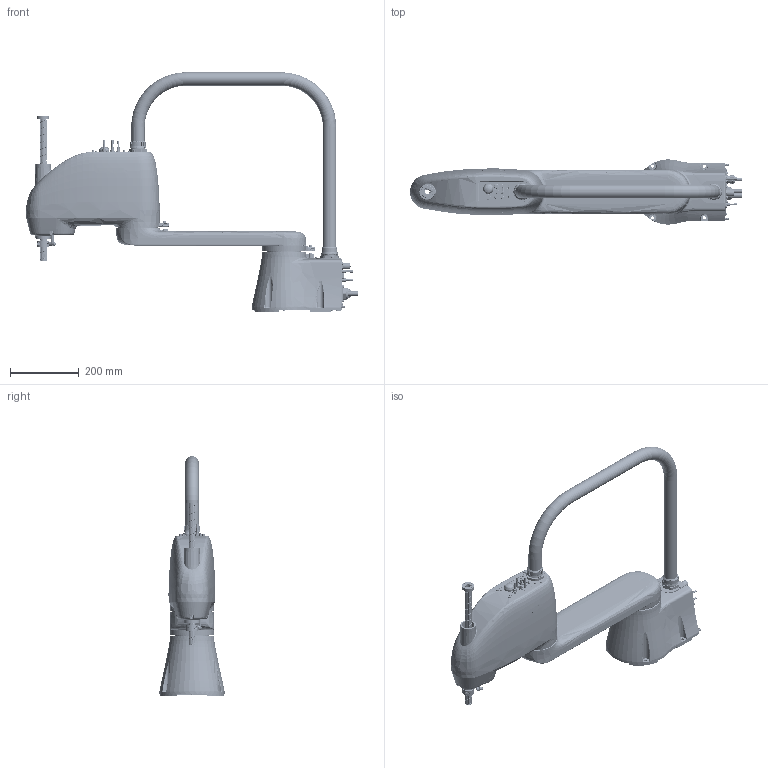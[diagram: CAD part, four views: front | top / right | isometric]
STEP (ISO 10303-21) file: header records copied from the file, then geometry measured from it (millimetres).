
FILE_DESCRIPTION(/* description */ (''),/* implementation_level */ '2;1');
FILE_NAME(/* name */ 'KR6 R700 Z200.stp',/* time_stamp */ '2021-11-16T09:17:45+08:00',/* author */ (''),/* organization */ (''),/* preprocessor_version */ 'ST-DEVELOPER v16.7',/* originating_system */ 'SIEMENS PLM Software NX 1919',/* authorisation */ '');
FILE_SCHEMA (('AUTOMOTIVE_DESIGN { 1 0 10303 214 3 1 1 1 }'));
Products named in the file (7): cable 1-700; cable 2-700; ball screw 2; Central arm; Linkarm 700; baseframe 2; KR6 R700 Z200
Assembly tree (6 placements, depth 2):
  KR6 R700 Z200
    baseframe 2
    Linkarm 700
    Central arm
    ball screw 2
    cable 2-700
    cable 1-700
Bounding box: 964.69 x 189.73 x 696.1 mm (x, y, z)
Volume: 11851551 mm3; surface area: 1068957.2 mm2
Topology: 23 solids, 52 shells, 5370 faces, 13528 edges, 8442 vertices
Faces by surface type: plane 1745, cylinder 1555, cone 686, bspline 682, torus 388, extrusion 227, sphere 86, revolution 1
Full cylindrical faces by diameter (mm): 1.1 x15, 2 x15, 2.5 x1, 2.8 x1, 2.84 x7, 3 x1, 3.3 x9, 4 x34, 4.3 x6, 4.5 x12, 4.8 x4, 5 x6, 6 x9, 6.8 x4, 7 x42, 7.7 x4, 7.9 x4, 8 x10, 8.6 x1, 9 x12, 9.7 x4, 9.9 x4, 10 x4, 11 x5, 12 x2, 13.4 x1, 14 x2, 17.5 x1, 18.9 x1, 20 x1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
Entity records: 495423 total; most frequent: CARTESIAN_POINT 357848, ORIENTED_EDGE 25736, DIRECTION 21329, EDGE_CURVE 12868, AXIS2_PLACEMENT_3D 8515, VERTEX_POINT 8265, EDGE_LOOP 6183, ADVANCED_FACE 5362
